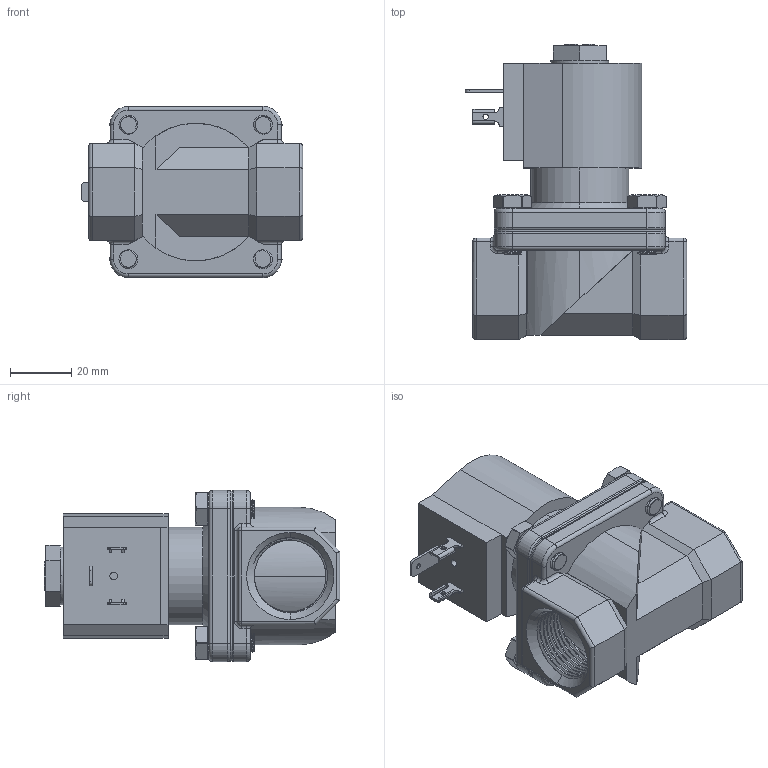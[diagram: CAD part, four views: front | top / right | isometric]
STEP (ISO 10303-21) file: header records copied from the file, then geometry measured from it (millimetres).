
FILE_DESCRIPTION (( 'STEP AP203' ), '1' );
FILE_NAME ('S211Y_E.STEP', '2021-08-31T16:54:09', ( '' ), ( '' ), 'SwSTEP 2.0', 'SolidWorks 2020', '' );
FILE_SCHEMA (( 'CONFIG_CONTROL_DESIGN' ));
Length unit declared in the file: inch
Products named in the file (1): S211Y_E
Bounding box: 72.42 x 96.75 x 56.01 mm (x, y, z)
Volume: 160439 mm3; surface area: 28624.6 mm2
Topology: 1 solids, 1 shells, 451 faces, 1165 edges, 734 vertices
Faces by surface type: plane 192, cylinder 166, bspline 47, torus 24, cone 18, sphere 4
Entity records: 36727 total; most frequent: CARTESIAN_POINT 26558, ORIENTED_EDGE 2322, DIRECTION 1865, EDGE_CURVE 1161, VERTEX_POINT 734, AXIS2_PLACEMENT_3D 656, LINE 553, VECTOR 553
